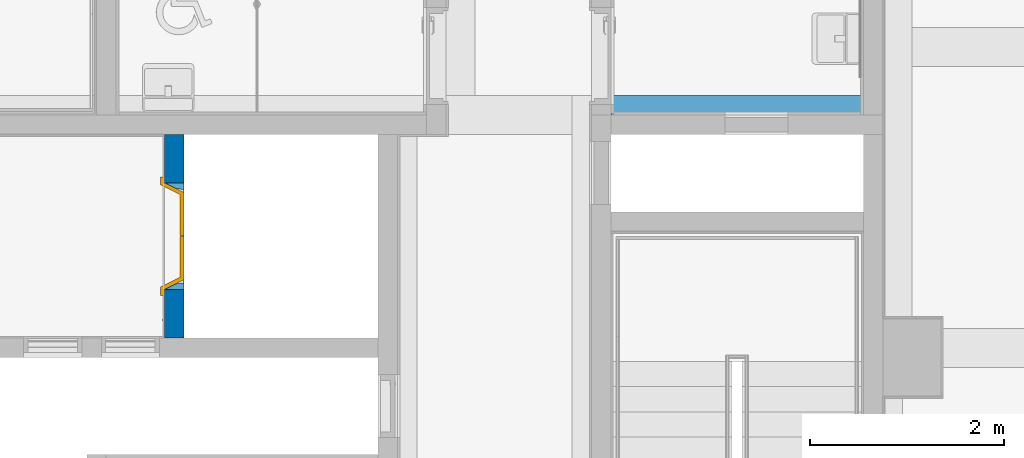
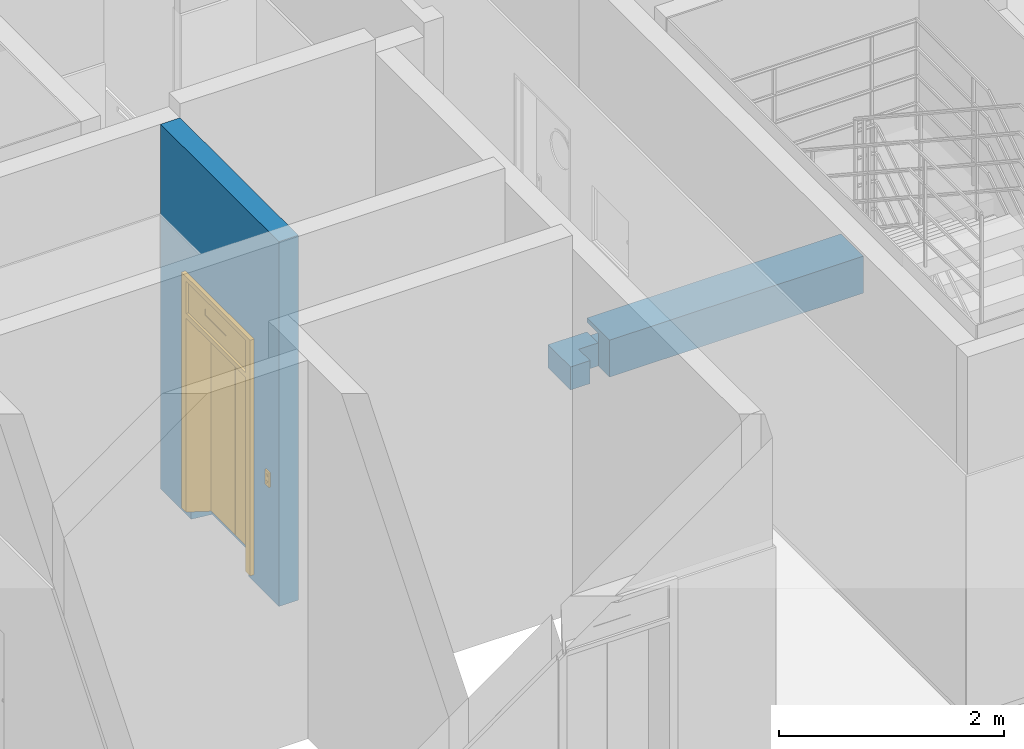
# One storey, part 68 of 81: 1 beam, 1 door, 1 wall, 1 opening.
"""IFC2X3 building model written with IfcOpenShell, lengths in millimetres."""

from ifc_helpers import new_model, entity, si_unit, converted_unit, derived_unit, direction, frame, frame_2d, origin, place, context, subcontext, project, spatial, rectangle, extrude, faceted_brep, source, transform, mapped, material, material_list, layer, layer_set, type_object, type_shapes, element, fill, save


model = new_model("IFC2X3")

# Units and contexts
model_context = context("Model", 3, precision=0.01, world=origin(), true_north=direction((6.123031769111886e-17, 1.0)))
body_context = subcontext(model_context, "Body", "Model", "MODEL_VIEW")
ifc_project = project(units=[si_unit("LENGTHUNIT", "METRE", prefix="MILLI"), si_unit("AREAUNIT", "SQUARE_METRE"), si_unit("VOLUMEUNIT", "CUBIC_METRE"), converted_unit("PLANEANGLEUNIT", "DEGREE", entity("IfcRatioMeasure", 0.017453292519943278), si_unit("PLANEANGLEUNIT", "RADIAN"), dimensions=[0, 0, 0, 0, 0, 0, 0]), si_unit("MASSUNIT", "GRAM", prefix="KILO"), derived_unit("MASSDENSITYUNIT", [(si_unit("MASSUNIT", "GRAM", prefix="KILO"), 1), (si_unit("LENGTHUNIT", "METRE"), -3)]), derived_unit("MOMENTOFINERTIAUNIT", [(si_unit("LENGTHUNIT", "METRE"), 4)]), si_unit("TIMEUNIT", "SECOND"), si_unit("FREQUENCYUNIT", "HERTZ"), si_unit("THERMODYNAMICTEMPERATUREUNIT", "DEGREE_CELSIUS"), derived_unit("THERMALTRANSMITTANCEUNIT", [(si_unit("MASSUNIT", "GRAM", prefix="KILO"), 1), (si_unit("THERMODYNAMICTEMPERATUREUNIT", "KELVIN"), -1), (si_unit("TIMEUNIT", "SECOND"), -3)]), derived_unit("VOLUMETRICFLOWRATEUNIT", [(si_unit("LENGTHUNIT", "METRE"), 3), (si_unit("TIMEUNIT", "SECOND"), -1)]), derived_unit("MASSFLOWRATEUNIT", [(si_unit("MASSUNIT", "GRAM", prefix="KILO"), 1), (si_unit("TIMEUNIT", "SECOND"), -1)]), derived_unit("ROTATIONALFREQUENCYUNIT", [(si_unit("TIMEUNIT", "SECOND"), -1)]), si_unit("ELECTRICCURRENTUNIT", "AMPERE"), si_unit("ELECTRICVOLTAGEUNIT", "VOLT"), si_unit("POWERUNIT", "WATT"), si_unit("FORCEUNIT", "NEWTON", prefix="KILO"), si_unit("ILLUMINANCEUNIT", "LUX"), si_unit("LUMINOUSFLUXUNIT", "LUMEN"), si_unit("LUMINOUSINTENSITYUNIT", "CANDELA"), derived_unit("USERDEFINED", [(si_unit("MASSUNIT", "GRAM", prefix="KILO"), -1), (si_unit("LENGTHUNIT", "METRE"), -2), (si_unit("TIMEUNIT", "SECOND"), 3), (si_unit("LUMINOUSFLUXUNIT", "LUMEN"), 1)]), derived_unit("SOUNDPOWERUNIT", [(si_unit("MASSUNIT", "GRAM", prefix="KILO"), 1), (si_unit("LENGTHUNIT", "METRE"), 2), (si_unit("TIMEUNIT", "SECOND"), -3)]), derived_unit("SOUNDPRESSUREUNIT", [(si_unit("MASSUNIT", "GRAM", prefix="KILO"), 1), (si_unit("LENGTHUNIT", "METRE"), -1), (si_unit("TIMEUNIT", "SECOND"), -2)]), derived_unit("LINEARVELOCITYUNIT", [(si_unit("LENGTHUNIT", "METRE"), 1), (si_unit("TIMEUNIT", "SECOND"), -1)]), si_unit("PRESSUREUNIT", "PASCAL"), derived_unit("USERDEFINED", [(si_unit("LENGTHUNIT", "METRE"), -2), (si_unit("MASSUNIT", "GRAM", prefix="KILO"), 1), (si_unit("TIMEUNIT", "SECOND"), -2)]), derived_unit("LINEARFORCEUNIT", [(si_unit("MASSUNIT", "GRAM", prefix="KILO"), 1), (si_unit("LENGTHUNIT", "METRE"), 1), (si_unit("TIMEUNIT", "SECOND"), -2), (si_unit("LENGTHUNIT", "METRE"), -1)]), derived_unit("PLANARFORCEUNIT", [(si_unit("MASSUNIT", "GRAM", prefix="KILO"), 1), (si_unit("LENGTHUNIT", "METRE"), 1), (si_unit("TIMEUNIT", "SECOND"), -2), (si_unit("LENGTHUNIT", "METRE"), -2)])], contexts=[model_context])

# Site, building, storey
site_placement = place(None, frame((-14167.972527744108, -657.2125860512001, 0.0)))
site = spatial("IfcSite", under=ifc_project, at=site_placement, Name="Default", CompositionType="ELEMENT")
building_placement = place(site_placement, origin())
building = spatial("IfcBuilding", under=site, at=building_placement, Name="Sample Building", CompositionType="ELEMENT")
storey_placement = place(building_placement, frame((0.0, 0.0, 13400.0)))
storey = spatial("IfcBuildingStorey", under=building, at=storey_placement, Name="지상 4층", CompositionType="ELEMENT", Elevation=13400.00000000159)

# Beam
ifc_material_1 = material(Name="KBIMS-콘크리트")
beam_type = type_object("IfcBeamType", Name="BM111-철근콘크리트구조 보:BM110-철근 콘크리트구조 보_400 x 400_2-10B5", PredefinedType="NOTDEFINED")
beam_placement = place(storey_placement, frame((37767.94644879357, 22257.212429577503, -400.0)))
element("IfcBeam", 1, at=beam_placement, inside=storey, type_object=beam_type, material=ifc_material_1, Name="BM111-철근콘크리트구조 보:BM110-철근 콘크리트구조 보_400 x 400_2-10B5", ObjectType="BM111-철근콘크리트구조 보:BM110-철근 콘크리트구조 보_400 x 400_2-10B5", context=body_context, shape_type="Brep", body=[
    faceted_brep([(3000.026158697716, 0.0, 400.0), (3000.026158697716, 400.0, 400.0), (400.0086132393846, 400.0, 400.0), (400.01298130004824, 199.99988165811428, 400.0), (400.01734935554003, 0.0, 400.0), (3000.026158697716, 0.0, 0.0), (400.01734935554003, 0.0, 0.0), (0.0, 0.0, 0.0), (0.0, 400.0, 0.0), (3000.026158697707, 400.0, 0.0), (400.01734935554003, 199.99986890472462, 0.0), (200.0173493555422, 199.99986890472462, 0.0), (200.0173493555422, 0.0, 0.0), (3000.026158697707, 400.0, 350.0), (400.0086132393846, 400.0, 350.0), (0.0, 0.0, 250.0), (0.0, 400.0, 250.0), (3000.026158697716, 400.0, 200.0), (3000.026158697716, 199.99987390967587, 200.0), (3000.026158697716, 199.99987390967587, 350.0), (400.0086132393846, 400.0, 250.0), (200.0173493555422, 0.0, 250.0), (200.01734935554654, 199.99986890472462, 250.0), (400.0086132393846, 199.99987390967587, 250.0), (400.01734935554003, 400.0, 350.0), (400.01734935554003, 199.99987390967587, 350.0), (400.01734935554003, 199.99987390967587, 250.0), (400.0086132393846, 199.99987390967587, 200.0), (400.0086132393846, 400.0, 200.0), (3000.0173062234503, 199.99987390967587, 350.0), (3000.0173062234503, 199.99987390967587, 200.0), (400.0086132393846, 199.99987390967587, 350.0), (400.0129813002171, 199.99986890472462, 250.0)], [[[0, 1, 2, 3, 4]], [[5, 0, 4, 6]], [[7, 8, 9, 5, 6, 10, 11, 12]], [[1, 13, 14, 2]], [[8, 7, 15, 16]], [[1, 0, 5, 9, 17, 18, 19, 13]], [[20, 16, 15, 21, 22, 23]], [[2, 24, 25, 26, 10, 6, 4, 3]], [[27, 18, 17, 28]], [[29, 25, 14, 13]], [[30, 27, 26, 31, 19]], [[27, 28, 20, 23]], [[9, 8, 16, 20, 28, 17]], [[10, 32, 22, 11]], [[11, 22, 21, 12]], [[15, 7, 12, 21]]]),
])

# Wall, opening, door
ifc_layer = layer(ifc_material_1, 200.0)
ifc_layer_set = layer_set([ifc_layer], Name="기본 벽:WA111-철근콘크리트구조 벽 200mm_CW1")
wall_type = type_object("IfcWallType", Name="기본 벽:WA111-철근콘크리트구조 벽 200mm_CW1", PredefinedType="STANDARD", material=ifc_layer_set)
wall_placement = place(storey_placement, frame((33667.97249113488, 22257.212311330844, -2.3000097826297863e-09), z_axis=(0.0, 0.0, 1.0), x_axis=(0.0, -1.0, 0.0)))
wall = element("IfcWall", 2, at=wall_placement, inside=storey, type_object=wall_type, Name="기본 벽:WA111-철근콘크리트구조 벽 200mm_CW1", ObjectType="기본 벽:WA111-철근콘크리트구조 벽 200mm_CW1", context=body_context, shape_type="Brep", body=[
    faceted_brep([(2100.0, -100.0, 0.0), (2100.0, -100.0, 3950.0), (0.0, -100.0, 3950.0), (0.0, -100.0, 2980.0), (2082.000412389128, -100.0, 2980.0), (2082.000412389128, -100.0, 0.0), (2100.0, 100.0, 0.0), (0.0, 100.0, 0.0), (0.0, 100.0, 3950.0), (2100.0, 100.0, 3950.0), (500.0000016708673, 100.0, 2630.0), (500.0000016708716, 100.0, 80.0), (1600.0, 100.0, 80.0), (1600.0, 100.0, 2630.0), (2082.000412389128, -99.36704707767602, 0.0), (1557.0213112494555, -99.36704707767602, 0.0), (1529.7770699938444, 98.15332333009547, 0.0), (570.2229333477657, 98.15332333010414, 0.0), (542.9786920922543, -99.36704707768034, 0.0), (0.0, -99.36704707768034, 0.0), (0.0, -99.36704707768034, 2980.0), (570.2229333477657, 98.15332333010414, 80.0), (542.9786920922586, -99.36704707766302, 80.0), (1529.7770699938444, 98.15332333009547, 80.0), (1557.0213112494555, -99.36704707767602, 80.0), (500.0000016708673, -99.36704707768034, 2630.0), (500.0000016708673, -99.36704707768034, 80.0), (1600.0, -99.36704707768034, 2630.0), (1600.0, -99.36704707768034, 80.0), (2082.000412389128, -99.36704707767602, 2980.0), (0.0004090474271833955, -99.36704707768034, 2980.0)], [[[0, 1, 2, 3, 4, 5]], [[6, 7, 8, 9], [10, 11, 12, 13]], [[7, 6, 0, 5, 14, 15, 16, 17, 18, 19]], [[8, 7, 19, 20, 3, 2]], [[0, 6, 9, 1]], [[2, 1, 9, 8]], [[17, 21, 22, 18]], [[21, 17, 16, 23]], [[23, 16, 15, 24]], [[11, 10, 25, 26]], [[10, 13, 27, 25]], [[13, 12, 28, 27]], [[12, 11, 26, 22, 21, 23, 24, 28]], [[29, 20, 19, 18, 22, 26, 25, 27, 28, 24, 15, 14]], [[29, 14, 5, 4]], [[30, 29, 4, 3]]]),
])
opening_placement = place(wall_placement, frame((500.0000016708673, -100.0, 80.0)))
opening = element("IfcOpeningElement", 3, at=opening_placement, cuts=wall, Name="EE111-엘리베이터문(문):EE111-엘리베이터문(13인승)_1100x2550:1", ObjectType="Opening", context=body_context, shape_type="SweptSolid", body=[
    extrude(rectangle(XDim=2549.999999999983, YDim=1099.9999999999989, at=frame_2d((1274.9999999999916, 550.0000000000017), x_axis=(1.0, 0.0))), frame((0.0, 0.0, 0.0), z_axis=(0.0, 1.0, 0.0), x_axis=(0.0, 0.0, 1.0)), (0.0, 0.0, 1.0), 200.0),
])
ifc_material_2 = material(Name="<Unnamed>")
ifc_material_list = material_list([ifc_material_2, ifc_material_2, ifc_material_2, ifc_material_2])
door_style = type_object("IfcDoorStyle", Name="EE111-엘리베이터문(문):EE111-엘리베이터문(13인승)_1100x2550", ConstructionType="NOTDEFINED", OperationType="DOUBLE_DOOR_SLIDING", ParameterTakesPrecedence=False, Sizeable=False, material=ifc_material_list)
shared_shape = source(origin(), body_context, "Body", "Brep", [
    faceted_brep([(-296.2736811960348, 220.43384628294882, 1175.0), (-313.5941892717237, 220.4338462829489, 1145.0), (-330.9146973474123, 220.43384628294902, 1175.0), (-296.2736811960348, 215.04269782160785, 1175.0), (-330.9146973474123, 215.0426978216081, 1175.0), (-313.5941892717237, 215.04269782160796, 1145.0)], [[[0, 1, 2]], [[3, 4, 5]], [[1, 0, 3, 5]], [[2, 1, 5, 4]], [[0, 2, 4, 3]]]),
    faceted_brep([(-330.9146973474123, 220.43384628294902, 1225.0), (-296.2736811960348, 220.43384628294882, 1225.0), (-296.2736811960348, 215.04269782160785, 1225.0), (-330.9146973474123, 215.04269782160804, 1225.0), (-313.5941892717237, 220.4338462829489, 1255.0), (-313.5941892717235, 215.04269782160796, 1255.0)], [[[0, 1, 2, 3]], [[4, 0, 3, 5]], [[1, 4, 5, 2]], [[2, 5, 3]], [[1, 0, 4]]]),
    faceted_brep([(-351.5567877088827, 215.0426978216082, 1277.0326998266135), (-275.63159083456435, 215.04269782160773, 1277.0326998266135), (-275.63159083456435, 215.04269782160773, 1122.967300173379), (-351.5567877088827, 215.0426978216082, 1122.967300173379), (-351.55678770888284, 200.0, 1277.0326998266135), (-351.55678770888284, 200.0, 1122.967300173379), (-275.6315908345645, 200.0, 1122.967300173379), (-275.6315908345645, 200.0, 1277.0326998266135)], [[[0, 1, 2, 3]], [[4, 5, 6, 7]], [[1, 0, 4, 7]], [[2, 1, 7, 6]], [[3, 2, 6, 5]], [[0, 3, 5, 4]]]),
    faceted_brep([(-60.0, 200.0, 2550.0), (-60.0, 240.0, 2550.0), (-60.0, 240.0, 0.0), (-60.0, 200.0, 0.0), (703.014298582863, 240.0, 2550.0), (703.014298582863, 240.0, 2500.0), (27.911234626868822, 240.0, 2500.0), (27.911234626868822, 240.0, 2150.0), (703.014298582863, 240.0, 2150.0), (703.014298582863, 240.0, 2100.0), (27.911234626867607, 240.0, 2100.0), (27.911234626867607, 240.0, 0.0), (978.5926496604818, 40.0, 0.0), (1078.5926496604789, 240.0, 0.0), (1160.0, 240.0, 0.0), (1160.0, 200.0, 0.0), (1100.0, 200.0, 0.0), (1000.0, 0.0, 0.0), (555.0, 0.0, 0.0), (555.0, 40.0, 0.0), (0.0, 200.0, 2550.0), (0.0, 200.0, 0.0), (100.0, 0.0, 2550.0), (100.0, 0.0, 0.0), (1000.0, 0.0, 2550.0), (545.0, 0.0, 0.0), (545.0, 0.0, 2100.0), (555.0, 0.0, 2100.0), (545.0, 40.0, 0.0), (545.0, 40.0, 2100.0), (555.0, 40.0, 2100.0), (1100.0, 200.0, 2550.0), (1160.0, 200.0, 2550.0), (1160.0, 240.0, 2550.0), (1078.5926496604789, 240.0, 2100.0), (1078.5926496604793, 240.0, 2150.0), (1078.5926496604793, 240.0, 2500.0), (978.5926496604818, 40.0, 2100.0), (127.91123462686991, 40.0, 0.0), (127.91123462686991, 40.0, 2100.0), (1078.5926496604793, 214.08728771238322, 2150.0), (1078.5926496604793, 214.08728771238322, 2500.0), (27.911234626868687, 214.0872877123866, 2500.0), (27.911234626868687, 214.0872877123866, 2150.0), (550.0, 214.08728771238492, 2370.0), (410.8272722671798, 214.08728771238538, 2370.0), (410.8272722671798, 214.08728771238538, 2300.0), (550.0, 214.08728771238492, 2300.0), (789.172727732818, 214.08728771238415, 2300.0), (789.172727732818, 214.08728771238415, 2370.0), (550.0, 208.4787281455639, 2370.0), (410.8272722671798, 208.47872814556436, 2370.0), (410.8272722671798, 208.47872814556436, 2300.0), (789.172727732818, 208.47872814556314, 2300.0), (789.172727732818, 208.47872814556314, 2370.0), (550.0, 208.4787281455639, 2300.0)], [[[0, 1, 2, 3]], [[2, 1, 4, 5, 6, 7, 8, 9, 10, 11]], [[12, 13, 14, 15, 16, 17, 18, 19]], [[20, 0, 3, 21]], [[22, 20, 21, 23]], [[24, 22, 23, 25, 26, 27, 18, 17]], [[25, 28, 29, 26]], [[19, 18, 27, 30]], [[31, 24, 17, 16]], [[32, 31, 16, 15]], [[33, 32, 15, 14]], [[4, 33, 14, 13, 34, 9, 8, 35, 36, 5]], [[13, 12, 37, 34]], [[38, 11, 10, 39]], [[38, 39, 29, 28]], [[37, 12, 19, 30]], [[1, 0, 20, 22, 24, 31, 32, 33, 4]], [[40, 41, 36, 35]], [[41, 42, 6, 5, 36]], [[42, 43, 7, 6]], [[43, 42, 41, 40], [44, 45, 46, 47, 48, 49]], [[50, 51, 45, 44]], [[51, 52, 46, 45]], [[53, 54, 49, 48]], [[54, 50, 44, 49]], [[50, 54, 53, 55, 52, 51]], [[10, 9, 34, 37, 30, 27, 26, 29, 39]], [[43, 40, 35, 8, 7]], [[52, 55, 47, 46]], [[55, 53, 48, 47]], [[21, 3, 2, 11, 38, 28, 25, 23]]]),
])
type_shapes(door_style, [shared_shape])
door_placement = place(opening_placement, frame((1100.0, 200.0, 2.2992026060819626e-09), z_axis=(0.0, 0.0, 1.0), x_axis=(-1.0, 0.0, 0.0)))
door = element("IfcDoor", 4, at=door_placement, inside=storey, type_object=door_style, material=ifc_material_2, Name="EE111-엘리베이터문(문):EE111-엘리베이터문(13인승)_1100x2550", ObjectType="EE111-엘리베이터문(문):EE111-엘리베이터문(13인승)_1100x2550", OverallHeight=2549.999999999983, OverallWidth=1100.0000000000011, context=body_context, shape_type="MappedRepresentation", body=[
    mapped(shared_shape, transform((0.0, 0.0, 0.0), scale=1.0)),
])
fill(opening, door)

save(model, "model.ifc")
